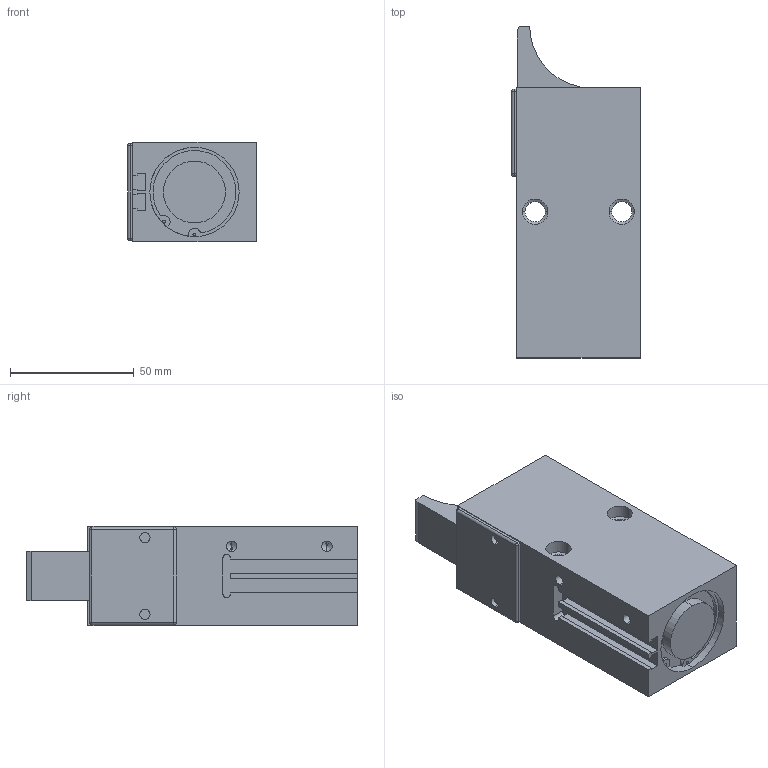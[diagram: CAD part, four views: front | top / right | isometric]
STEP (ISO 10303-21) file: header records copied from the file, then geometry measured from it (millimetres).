
FILE_DESCRIPTION (( 'STEP AP203' ), '1' );
FILE_NAME ('D0400-25-DW-E.STEP', '2011-09-27T12:51:12', ( 'test' ), ( '' ), 'SwSTEP 2.0', 'SolidWorks 2010', '' );
FILE_SCHEMA (( 'CONFIG_CONTROL_DESIGN' ));
Length unit declared in the file: millimetre
Products named in the file (1): D0400-25-DW-E
Bounding box: 52 x 134 x 40 mm (x, y, z)
Volume: 210430.8 mm3; surface area: 34706.3 mm2
Topology: 1 solids, 1 shells, 133 faces, 330 edges, 196 vertices
Faces by surface type: cylinder 60, plane 49, cone 20, sphere 4
Entity records: 3905 total; most frequent: DIRECTION 702, CARTESIAN_POINT 658, ORIENTED_EDGE 628, EDGE_CURVE 314, AXIS2_PLACEMENT_3D 256, VERTEX_POINT 196, LINE 190, VECTOR 190
